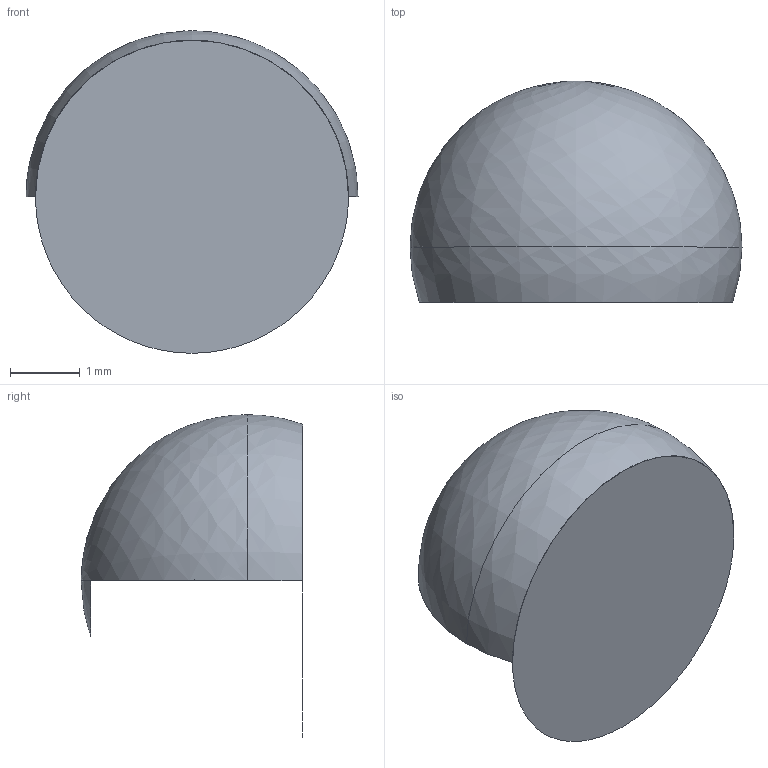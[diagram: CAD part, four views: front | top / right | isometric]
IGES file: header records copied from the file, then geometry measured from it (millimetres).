
Start section: SolidWorks IGES file using analytic representation for surfaces
Global section: file name: D:\Solid_parts\MECHeDESIGN\Bal-Tec\Catalog 105-A\Distribution\IGES\187-TB.IGS; native system: SolidWorks 2005 by SolidWorks Corporation; preprocessor: SolidWorks 2005 by SolidWorks Corporation; author: rvillegas; date: 061205.185320; units: inch
Bounding box: 4.76 x 3.17 x 4.63 mm (x, y, z)
Surface area: 58.4 mm2 (no closed solid volume)
Topology: 0 solids, 0 shells, 3 faces, 40 edges, 39 vertices
Faces by surface type: revolution 2, bspline 1
